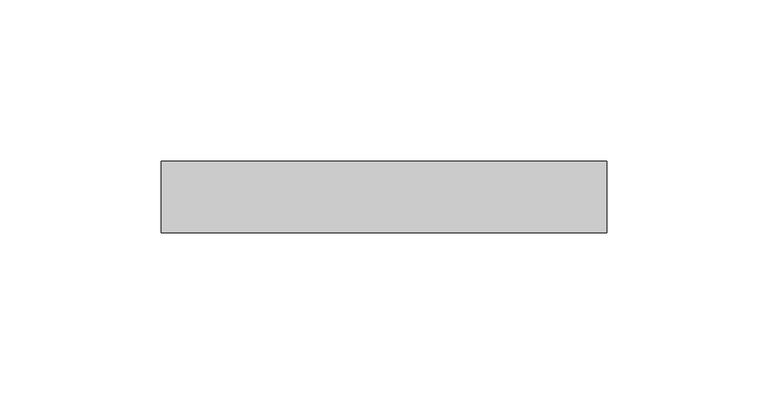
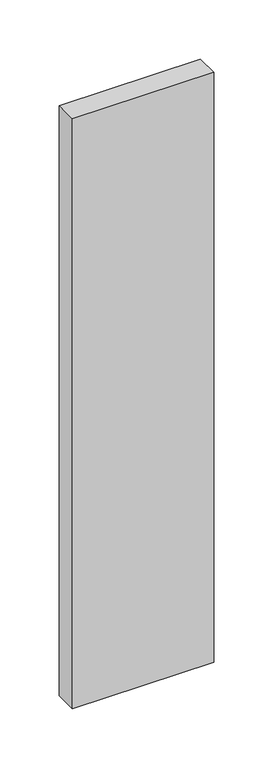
"""IFC4 building model written with IfcOpenShell, lengths in millimetres: proxy geometry, CANTILEVER - (H-QECB)."""

from ifc_helpers import new_model, si_unit, origin, origin_with_axes, place, context, project, spatial, polyline, outline, extrude, source, transform, mapped, element, save


def generic_models_23d3de63(model_context):
    return source(origin(), model_context, "Body", "SweptSolid", [
        extrude(outline(polyline([(138.1125, 0.0), (0.0, 0.0), (0.0, 22.225), (138.1125, 22.225), (138.1125, 0.0)])), origin_with_axes(), (0.0, 0.0, 1.0), 609.6),
    ])


if __name__ == "__main__":
    model = new_model("IFC4")
    model_context = context("Model", 3, world=origin())
    ifc_project = project(units=[si_unit("LENGTHUNIT", "METRE", prefix="MILLI")], contexts=[model_context])
    site = spatial("IfcSite", under=ifc_project)
    building = spatial("IfcBuilding", under=site)
    placement = place(None, origin())
    generic_models_shape = generic_models_23d3de63(model_context)
    element("IfcBuildingElementProxy", 1, Name="CANTILEVER - (H-QECB)", ObjectType="CANTILEVER - (H-QECB)", at=placement, inside=building, context=model_context, shape_type="MappedRepresentation", body=[
        mapped(generic_models_shape, transform((0.0, 0.0, 0.0), x_axis=(1.0, 0.0, 0.0), y_axis=(0.0, 1.0, 0.0), z_axis=(0.0, 0.0, 1.0))),
    ])
    save(model, "model.ifc")
